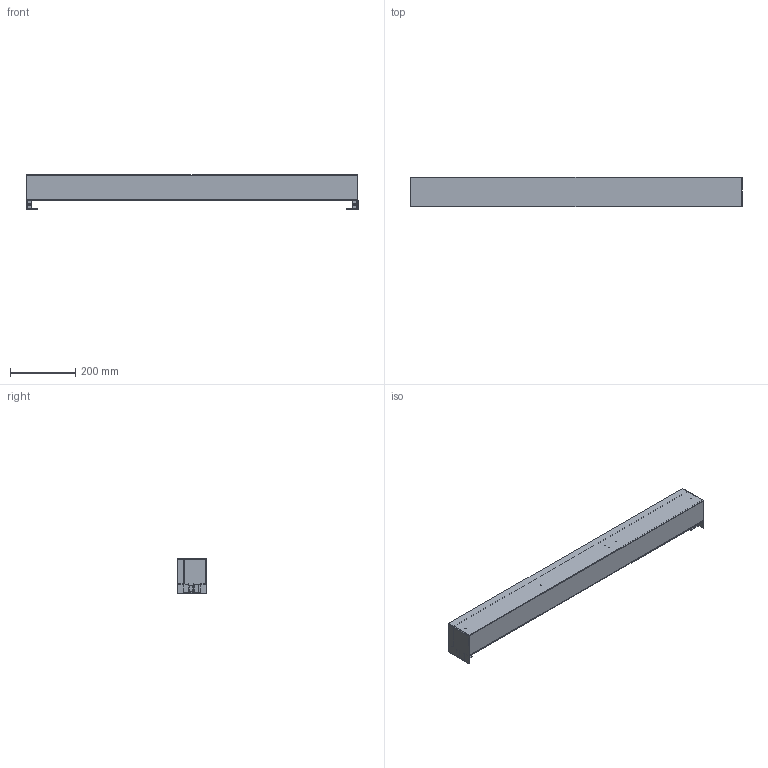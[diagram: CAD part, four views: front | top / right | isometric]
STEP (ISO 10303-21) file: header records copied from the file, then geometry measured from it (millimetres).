
FILE_DESCRIPTION (( 'STEP AP214' ), '1' );
FILE_NAME ('3D_VIIVA_100.STEP', '2018-03-14T15:44:11', ( 'Utente' ), ( '' ), 'SwSTEP 2.0', 'SolidWorks 2016', '' );
FILE_SCHEMA (( 'AUTOMOTIVE_DESIGN' ));
Length unit declared in the file: millimetre
Products named in the file (3): Group2^3D_VIIVA_100; Group1^3D_VIIVA_100; 3D_VIIVA_100
Assembly tree (2 placements, depth 2):
  3D_VIIVA_100
    Group1^3D_VIIVA_100
    Group2^3D_VIIVA_100
Bounding box: 1015 x 90 x 105.5 mm (x, y, z)
Volume: 762249.9 mm3; surface area: 735984.4 mm2
Topology: 3 solids, 3 shells, 318 faces, 758 edges, 460 vertices
Faces by surface type: plane 186, cylinder 104, torus 12, cone 12, sphere 4
Entity records: 10773 total; most frequent: DIRECTION 1684, CARTESIAN_POINT 1541, ORIENTED_EDGE 1516, EDGE_CURVE 758, AXIS2_PLACEMENT_3D 603, LINE 478, VECTOR 478, VERTEX_POINT 460
